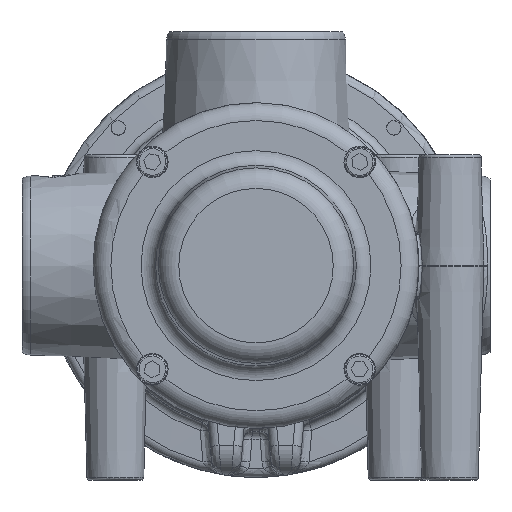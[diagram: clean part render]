
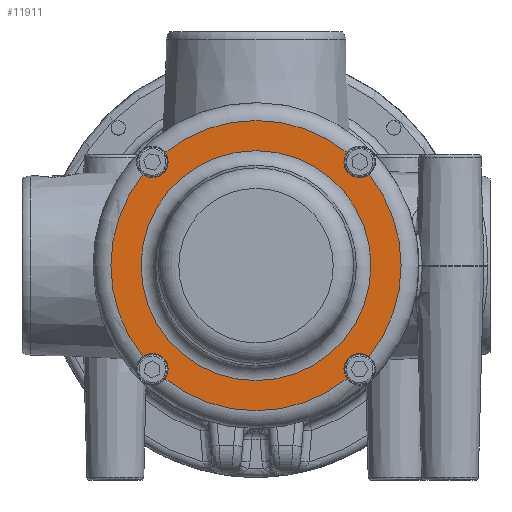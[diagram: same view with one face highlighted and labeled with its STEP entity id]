
A CAD part, front view. The second image highlights one B-rep face of the part: STEP entity #11911.
In plain terms, the highlighted planar face has unit normal (0, -1, 0).
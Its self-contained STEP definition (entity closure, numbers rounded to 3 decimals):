
#533=FACE_BOUND('',#2789,.T.);
#1165=CIRCLE('',#13009,5.308);
#1166=CIRCLE('',#13010,49.);
#1167=CIRCLE('',#13011,5.308);
#1168=CIRCLE('',#13012,49.);
#1169=CIRCLE('',#13013,5.308);
#1170=CIRCLE('',#13014,49.);
#1171=CIRCLE('',#13015,5.308);
#1172=CIRCLE('',#13016,49.);
#1173=CIRCLE('',#13017,38.818);
#1896=FACE_OUTER_BOUND('',#2788,.T.);
#2788=EDGE_LOOP('',(#9905,#9906,#9907,#9908,#9909,#9910,#9911,#9912));
#2789=EDGE_LOOP('',(#9913));
#5438=VERTEX_POINT('',#28584);
#5439=VERTEX_POINT('',#28585);
#5440=VERTEX_POINT('',#28587);
#5441=VERTEX_POINT('',#28589);
#5442=VERTEX_POINT('',#28591);
#5443=VERTEX_POINT('',#28593);
#5444=VERTEX_POINT('',#28595);
#5445=VERTEX_POINT('',#28597);
#5446=VERTEX_POINT('',#28600);
#6967=EDGE_CURVE('',#5438,#5439,#1165,.T.);
#6968=EDGE_CURVE('',#5440,#5439,#1166,.T.);
#6969=EDGE_CURVE('',#5440,#5441,#1167,.T.);
#6970=EDGE_CURVE('',#5442,#5441,#1168,.T.);
#6971=EDGE_CURVE('',#5442,#5443,#1169,.T.);
#6972=EDGE_CURVE('',#5444,#5443,#1170,.T.);
#6973=EDGE_CURVE('',#5444,#5445,#1171,.T.);
#6974=EDGE_CURVE('',#5438,#5445,#1172,.T.);
#6975=EDGE_CURVE('',#5446,#5446,#1173,.T.);
#9905=ORIENTED_EDGE('',*,*,#6967,.T.);
#9906=ORIENTED_EDGE('',*,*,#6968,.F.);
#9907=ORIENTED_EDGE('',*,*,#6969,.T.);
#9908=ORIENTED_EDGE('',*,*,#6970,.F.);
#9909=ORIENTED_EDGE('',*,*,#6971,.T.);
#9910=ORIENTED_EDGE('',*,*,#6972,.F.);
#9911=ORIENTED_EDGE('',*,*,#6973,.T.);
#9912=ORIENTED_EDGE('',*,*,#6974,.F.);
#9913=ORIENTED_EDGE('',*,*,#6975,.T.);
#10508=PLANE('',#13008);
#11911=ADVANCED_FACE('',(#1896,#533),#10508,.T.);
#13008=AXIS2_PLACEMENT_3D('',#28583,#15616,#15617);
#13009=AXIS2_PLACEMENT_3D('',#28586,#15618,#15619);
#13010=AXIS2_PLACEMENT_3D('',#28588,#15620,#15621);
#13011=AXIS2_PLACEMENT_3D('',#28590,#15622,#15623);
#13012=AXIS2_PLACEMENT_3D('',#28592,#15624,#15625);
#13013=AXIS2_PLACEMENT_3D('',#28594,#15626,#15627);
#13014=AXIS2_PLACEMENT_3D('',#28596,#15628,#15629);
#13015=AXIS2_PLACEMENT_3D('',#28598,#15630,#15631);
#13016=AXIS2_PLACEMENT_3D('',#28599,#15632,#15633);
#13017=AXIS2_PLACEMENT_3D('',#28601,#15634,#15635);
#15616=DIRECTION('center_axis',(0.,-1.,0.));
#15617=DIRECTION('ref_axis',(0.,0.,
-1.));
#15618=DIRECTION('center_axis',(0.,1.,0.));
#15619=DIRECTION('ref_axis',(-1.,0.,0.));
#15620=DIRECTION('center_axis',(0.,1.,0.));
#15621=DIRECTION('ref_axis',(-1.,0.,0.));
#15622=DIRECTION('center_axis',(0.,1.,0.));
#15623=DIRECTION('ref_axis',(-1.,0.,0.));
#15624=DIRECTION('center_axis',(0.,1.,0.));
#15625=DIRECTION('ref_axis',(-1.,0.,0.));
#15626=DIRECTION('center_axis',(0.,1.,0.));
#15627=DIRECTION('ref_axis',(-1.,0.,0.));
#15628=DIRECTION('center_axis',(0.,1.,0.));
#15629=DIRECTION('ref_axis',(-1.,0.,0.));
#15630=DIRECTION('center_axis',(0.,1.,0.));
#15631=DIRECTION('ref_axis',(-1.,0.,0.));
#15632=DIRECTION('center_axis',(0.,1.,0.));
#15633=DIRECTION('ref_axis',(-1.,0.,0.));
#15634=DIRECTION('center_axis',(0.,1.,0.));
#15635=DIRECTION('ref_axis',(-1.,0.,0.));
#28583=CARTESIAN_POINT('Origin',(-43.909,-7.,0.));
#28584=CARTESIAN_POINT('',(38.161,-7.,30.736));
#28585=CARTESIAN_POINT('',(30.736,-7.,38.161));
#28586=CARTESIAN_POINT('Origin',(35.,-7.,35.));
#28587=CARTESIAN_POINT('',(-30.736,-7.,38.161));
#28588=CARTESIAN_POINT('Origin',(0.,-7.,
0.));
#28589=CARTESIAN_POINT('',(-38.161,-7.,30.736));
#28590=CARTESIAN_POINT('Origin',(-35.,-7.,35.));
#28591=CARTESIAN_POINT('',(-38.161,-7.,-30.736));
#28592=CARTESIAN_POINT('Origin',(0.,-7.,
0.));
#28593=CARTESIAN_POINT('',(-30.736,-7.,-38.161));
#28594=CARTESIAN_POINT('Origin',(-35.,-7.,-35.));
#28595=CARTESIAN_POINT('',(30.736,-7.,-38.161));
#28596=CARTESIAN_POINT('Origin',(0.,-7.,
0.));
#28597=CARTESIAN_POINT('',(38.161,-7.,-30.736));
#28598=CARTESIAN_POINT('Origin',(35.,-7.,-35.));
#28599=CARTESIAN_POINT('Origin',(0.,-7.,
0.));
#28600=CARTESIAN_POINT('',(-38.818,-7.,0.));
#28601=CARTESIAN_POINT('Origin',(0.,-7.,
0.));
